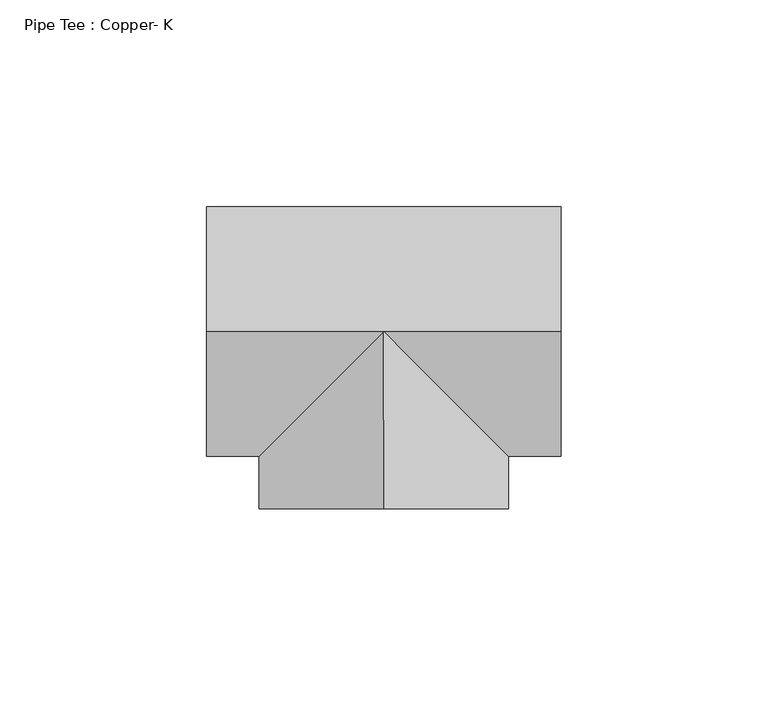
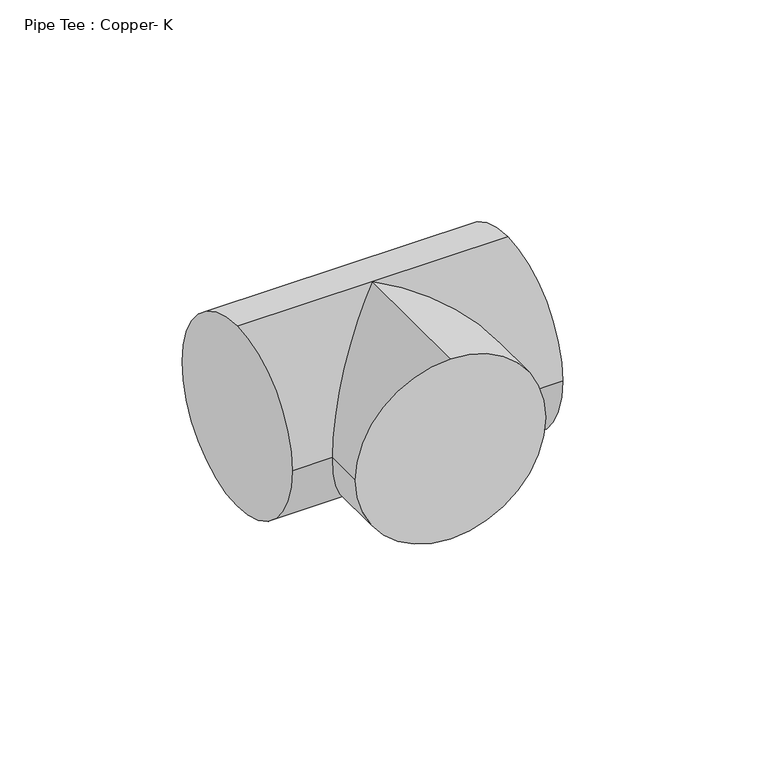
"""IFC4 building model written with IfcOpenShell, lengths in millimetres: pipe fitting geometry, Pipe Tee : Copper- K."""

from ifc_helpers import new_model, si_unit, frame, origin, place, context, project, spatial, circle_curve, ellipse_curve, source, transform, mapped, element, save
from ifc_brep_helpers import plane_surface, cylinder_surface, advanced_brep


def pipe_tee_copper_k_998683db(model_context):
    return source(origin(), model_context, "Body", "AdvancedBrep", [
        advanced_brep(
        [(-42.8625, 0.0, 30.1625), (-42.8625, 30.1625, 0.0), (-42.8625, 0.0, -30.1625), (-42.8625, -30.1625, 0.0), (42.8625, 0.0, 30.1625), (42.8625, -30.1625, 0.0), (42.8625, 0.0, -30.1625), (42.8625, 30.1625, 0.0), (0.0, 0.0, 30.1625), (0.0, 0.0, -30.1625), (-30.1622139, -30.1625, 0.0), (30.1627861, -30.1625, 0.0), (0.0004065, -42.8625, 30.1625), (-30.1620935, -42.8627861, 0.0), (0.0004065, -42.8625, -30.1625), (30.1629065, -42.8622139, 0.0)],
        [
            (0, 1, circle_curve(frame((-42.8625, 0.0, 0.0), z_axis=(-1.0, 0.0, 0.0), x_axis=(0.0, 1.0, 0.0)), 30.1625)),
            (1, 2, circle_curve(frame((-42.8625, 0.0, 0.0), z_axis=(-1.0, 0.0, 0.0), x_axis=(0.0, 1.0, 0.0)), 30.1625)),
            (2, 3, circle_curve(frame((-42.8625, 0.0, 0.0), z_axis=(-1.0, 0.0, 0.0), x_axis=(0.0, 1.0, 0.0)), 30.1625)),
            (3, 0, circle_curve(frame((-42.8625, 0.0, 0.0), z_axis=(-1.0, 0.0, 0.0), x_axis=(0.0, 1.0, 0.0)), 30.1625)),
            (4, 5, circle_curve(frame((42.8625, 0.0, 0.0), z_axis=(1.0, 0.0, 0.0), x_axis=(0.0, 1.0, 0.0)), 30.1625)),
            (5, 6, circle_curve(frame((42.8625, 0.0, 0.0), z_axis=(1.0, 0.0, 0.0), x_axis=(0.0, 1.0, 0.0)), 30.1625)),
            (6, 7, circle_curve(frame((42.8625, 0.0, 0.0), z_axis=(1.0, 0.0, 0.0), x_axis=(0.0, 1.0, 0.0)), 30.1625)),
            (7, 4, circle_curve(frame((42.8625, 0.0, 0.0), z_axis=(1.0, 0.0, 0.0), x_axis=(0.0, 1.0, 0.0)), 30.1625)),
            (0, 8),
            (8, 4),
            (7, 1),
            (6, 9),
            (9, 2),
            (9, 10, ellipse_curve(frame((0.0, 0.0, 0.0), z_axis=(-0.7071101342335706, 0.7071034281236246, 0.0), x_axis=(-0.7071034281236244, -0.7071101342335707, 0.0)), 42.6560143, 30.1625)),
            (10, 3),
            (5, 11),
            (11, 9, ellipse_curve(frame((0.0, 0.0, 0.0), z_axis=(0.7071034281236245, 0.7071101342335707, 0.0), x_axis=(-0.7071101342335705, 0.7071034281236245, 0.0)), 42.6564188, 30.1625)),
            (10, 8, ellipse_curve(frame((0.0, 0.0, 0.0), z_axis=(-0.7071101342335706, 0.7071034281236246, 0.0), x_axis=(-0.7071034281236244, -0.7071101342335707, 0.0)), 42.6560143, 30.1625)),
            (8, 11, ellipse_curve(frame((0.0, 0.0, 0.0), z_axis=(0.7071034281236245, 0.7071101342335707, 0.0), x_axis=(-0.7071101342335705, 0.7071034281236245, 0.0)), 42.6564188, 30.1625)),
            (12, 13, circle_curve(frame((0.0004065, -42.8625, 0.0), z_axis=(9.483871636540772e-06, -0.9999999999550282, 0.0), x_axis=(0.9999999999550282, 9.483871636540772e-06, 0.0)), 30.1625)),
            (13, 14, circle_curve(frame((0.0004065, -42.8625, 0.0), z_axis=(9.483871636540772e-06, -0.9999999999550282, 0.0), x_axis=(0.9999999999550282, 9.483871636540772e-06, 0.0)), 30.1625)),
            (14, 15, circle_curve(frame((0.0004065, -42.8625, 0.0), z_axis=(9.483871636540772e-06, -0.9999999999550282, 0.0), x_axis=(0.9999999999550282, 9.483871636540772e-06, 0.0)), 30.1625)),
            (15, 12, circle_curve(frame((0.0004065, -42.8625, 0.0), z_axis=(9.483871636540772e-06, -0.9999999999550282, 0.0), x_axis=(0.9999999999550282, 9.483871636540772e-06, 0.0)), 30.1625)),
            (15, 11),
            (8, 12),
            (14, 9),
            (13, 10),
        ],
        [
            plane_surface(frame((-42.8625, 0.0, 0.0), z_axis=(-1.0, 0.0, 0.0), x_axis=(0.0, 0.0, 1.0))),
            plane_surface(frame((42.8625, 0.0, 0.0), z_axis=(1.0, 0.0, 0.0), x_axis=(0.0, 0.0, 1.0))),
            cylinder_surface(frame((-42.8625, 0.0, 0.0), z_axis=(-1.0, 0.0, 0.0), x_axis=(0.0, 1.0, 0.0)), 30.1625),
            plane_surface(frame((0.0004065, -42.8625, 0.0), z_axis=(9.483871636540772e-06, -0.9999999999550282, 0.0), x_axis=(0.0, 0.0, 1.0))),
            cylinder_surface(frame((0.0, 0.0, 0.0), z_axis=(-9.483871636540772e-06, 0.9999999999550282, 0.0), x_axis=(0.9999999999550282, 9.483871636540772e-06, 0.0)), 30.1625),
        ],
        [
            (0, [[1, 2, 3, 4]]),
            (1, [[5, 6, 7, 8]]),
            (2, [[-1, 9, 10, -8, 11]]),
            (2, [[-2, -11, -7, 12, 13]]),
            (2, [[-3, -13, 14, 15]]),
            (2, [[-6, 16, 17, -12]]),
            (2, [[-4, -15, 18, -9]]),
            (2, [[-5, -10, 19, -16]]),
            (3, [[20, 21, 22, 23]]),
            (4, [[-23, 24, -19, 25]]),
            (4, [[-22, 26, -17, -24]]),
            (4, [[-21, 27, -14, -26]]),
            (4, [[-20, -25, -18, -27]]),
        ],
    ),
        advanced_brep(
        [(-42.8625, 0.0, 30.1625), (-42.8625, 30.1625, 0.0), (-42.8625, 0.0, -30.1625), (-42.8625, -30.1625, 0.0), (42.8625, 0.0, 30.1625), (42.8625, -30.1625, 0.0), (42.8625, 0.0, -30.1625), (42.8625, 30.1625, 0.0), (0.0, 0.0, 30.1625), (0.0, 0.0, -30.1625), (-30.1622139, -30.1625, 0.0), (30.1627861, -30.1625, 0.0), (0.0004065, -42.8625, 30.1625), (-30.1620935, -42.8627861, 0.0), (0.0004065, -42.8625, -30.1625), (30.1629065, -42.8622139, 0.0)],
        [
            (0, 1, circle_curve(frame((-42.8625, 0.0, 0.0), z_axis=(-1.0, 0.0, 0.0), x_axis=(0.0, 1.0, 0.0)), 30.1625)),
            (1, 2, circle_curve(frame((-42.8625, 0.0, 0.0), z_axis=(-1.0, 0.0, 0.0), x_axis=(0.0, 1.0, 0.0)), 30.1625)),
            (2, 3, circle_curve(frame((-42.8625, 0.0, 0.0), z_axis=(-1.0, 0.0, 0.0), x_axis=(0.0, 1.0, 0.0)), 30.1625)),
            (3, 0, circle_curve(frame((-42.8625, 0.0, 0.0), z_axis=(-1.0, 0.0, 0.0), x_axis=(0.0, 1.0, 0.0)), 30.1625)),
            (4, 5, circle_curve(frame((42.8625, 0.0, 0.0), z_axis=(1.0, 0.0, 0.0), x_axis=(0.0, 1.0, 0.0)), 30.1625)),
            (5, 6, circle_curve(frame((42.8625, 0.0, 0.0), z_axis=(1.0, 0.0, 0.0), x_axis=(0.0, 1.0, 0.0)), 30.1625)),
            (6, 7, circle_curve(frame((42.8625, 0.0, 0.0), z_axis=(1.0, 0.0, 0.0), x_axis=(0.0, 1.0, 0.0)), 30.1625)),
            (7, 4, circle_curve(frame((42.8625, 0.0, 0.0), z_axis=(1.0, 0.0, 0.0), x_axis=(0.0, 1.0, 0.0)), 30.1625)),
            (0, 8),
            (8, 4),
            (7, 1),
            (6, 9),
            (9, 2),
            (9, 10, ellipse_curve(frame((0.0, 0.0, 0.0), z_axis=(-0.7071101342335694, 0.7071034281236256, 0.0), x_axis=(-0.7071034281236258, -0.7071101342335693, 0.0)), 42.6560143, 30.1625)),
            (10, 3),
            (5, 11),
            (11, 9, ellipse_curve(frame((0.0, 0.0, 0.0), z_axis=(0.7071034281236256, 0.7071101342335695, 0.0), x_axis=(-0.7071101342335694, 0.7071034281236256, 0.0)), 42.6564188, 30.1625)),
            (10, 8, ellipse_curve(frame((0.0, 0.0, 0.0), z_axis=(-0.7071101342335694, 0.7071034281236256, 0.0), x_axis=(-0.7071034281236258, -0.7071101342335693, 0.0)), 42.6560143, 30.1625)),
            (8, 11, ellipse_curve(frame((0.0, 0.0, 0.0), z_axis=(0.7071034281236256, 0.7071101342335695, 0.0), x_axis=(-0.7071101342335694, 0.7071034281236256, 0.0)), 42.6564188, 30.1625)),
            (12, 13, circle_curve(frame((0.0004065, -42.8625, 0.0), z_axis=(9.483871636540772e-06, -0.9999999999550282, 0.0), x_axis=(0.9999999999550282, 9.483871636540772e-06, 0.0)), 30.1625)),
            (13, 14, circle_curve(frame((0.0004065, -42.8625, 0.0), z_axis=(9.483871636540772e-06, -0.9999999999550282, 0.0), x_axis=(0.9999999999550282, 9.483871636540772e-06, 0.0)), 30.1625)),
            (14, 15, circle_curve(frame((0.0004065, -42.8625, 0.0), z_axis=(9.483871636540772e-06, -0.9999999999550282, 0.0), x_axis=(0.9999999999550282, 9.483871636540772e-06, 0.0)), 30.1625)),
            (15, 12, circle_curve(frame((0.0004065, -42.8625, 0.0), z_axis=(9.483871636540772e-06, -0.9999999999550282, 0.0), x_axis=(0.9999999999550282, 9.483871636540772e-06, 0.0)), 30.1625)),
            (15, 11),
            (8, 12),
            (14, 9),
            (13, 10),
        ],
        [
            plane_surface(frame((-42.8625, 0.0, 0.0), z_axis=(-1.0, 0.0, 0.0), x_axis=(0.0, 0.0, 1.0))),
            plane_surface(frame((42.8625, 0.0, 0.0), z_axis=(1.0, 0.0, 0.0), x_axis=(0.0, 0.0, 1.0))),
            cylinder_surface(frame((-42.8625, 0.0, 0.0), z_axis=(-1.0, 0.0, 0.0), x_axis=(0.0, 1.0, 0.0)), 30.1625),
            plane_surface(frame((0.0004065, -42.8625, 0.0), z_axis=(9.483871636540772e-06, -0.9999999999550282, 0.0), x_axis=(0.0, 0.0, 1.0))),
            cylinder_surface(frame((0.0, 0.0, 0.0), z_axis=(-9.483871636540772e-06, 0.9999999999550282, 0.0), x_axis=(0.9999999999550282, 9.483871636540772e-06, 0.0)), 30.1625),
        ],
        [
            (0, [[1, 2, 3, 4]]),
            (1, [[5, 6, 7, 8]]),
            (2, [[-1, 9, 10, -8, 11]]),
            (2, [[-2, -11, -7, 12, 13]]),
            (2, [[-3, -13, 14, 15]]),
            (2, [[-6, 16, 17, -12]]),
            (2, [[-4, -15, 18, -9]]),
            (2, [[-5, -10, 19, -16]]),
            (3, [[20, 21, 22, 23]]),
            (4, [[-23, 24, -19, 25]]),
            (4, [[-22, 26, -17, -24]]),
            (4, [[-21, 27, -14, -26]]),
            (4, [[-20, -25, -18, -27]]),
        ],
    ),
    ])


if __name__ == "__main__":
    model = new_model("IFC4")
    model_context = context("Model", 3, world=origin())
    ifc_project = project(units=[si_unit("LENGTHUNIT", "METRE", prefix="MILLI")], contexts=[model_context])
    site = spatial("IfcSite", under=ifc_project)
    building = spatial("IfcBuilding", under=site)
    placement = place(None, origin())
    pipe_tee_copper_k_shape = pipe_tee_copper_k_998683db(model_context)
    element("IfcPipeFitting", 1, ObjectType="Pipe Tee : Copper- K", at=placement, inside=building, context=model_context, shape_type="MappedRepresentation", body=[
        mapped(pipe_tee_copper_k_shape, transform((0.0, 0.0, 0.0), x_axis=(1.0, 0.0, 0.0), y_axis=(0.0, 1.0, 0.0), z_axis=(0.0, 0.0, 1.0))),
    ])
    save(model, "model.ifc")
